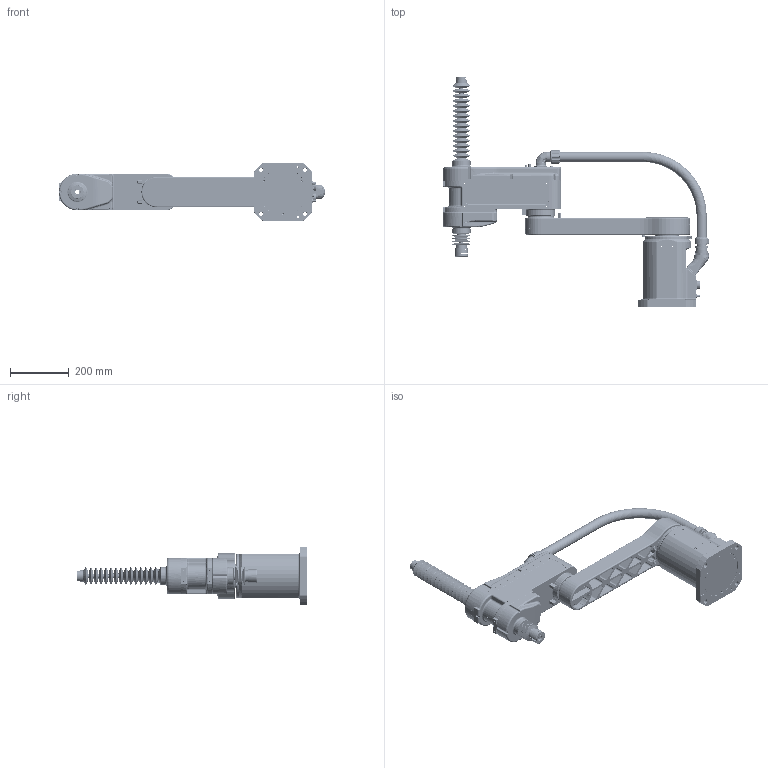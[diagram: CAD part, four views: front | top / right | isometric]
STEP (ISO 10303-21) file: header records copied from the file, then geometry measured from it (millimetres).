
FILE_DESCRIPTION (( 'STEP AP214' ), '1' );
FILE_NAME ('R4-0607F-00.STEP', '2023-06-10T08:28:22', ( 'iCura' ), ( 'ICOS' ), 'SwSTEP 2.0', 'SolidWorks 2018', '' );
FILE_SCHEMA (( 'AUTOMOTIVE_DESIGN' ));
Length unit declared in the file: millimetre
Products named in the file (7): 软管接头; 疏恇奪 0607; R4-0606F-4-00 ; R4-0606-3-00; R4-0607F-00; R4-0606-1-00; R4-0607-2-00
Assembly tree (6 placements, depth 2):
  R4-0607F-00
    R4-0606-1-00
    R4-0607-2-00
    R4-0606-3-00
    R4-0606F-4-00 
    软管接头
    疏恇奪 0607
Bounding box: 905.51 x 782.25 x 200 mm (x, y, z)
Volume: 237928.9 mm3; surface area: 1493655.9 mm2
Topology: 2 solids, 217 shells, 2657 faces, 9195 edges, 6600 vertices
Faces by surface type: cylinder 1103, plane 886, bspline 263, cone 212, torus 168, sphere 25
Full cylindrical faces by diameter (mm): 1 x18, 2.5 x31, 3.1 x2, 3.2 x8, 3.3 x16, 3.4 x24, 3.5 x44, 4 x6, 4.134 x1, 4.2 x18, 4.5 x16, 5 x2, 5.5 x34, 5.891 x2, 6 x14, 6.5 x4, 7 x17, 7.5 x2, 8 x24, 10 x5, 13 x2, 14 x7, 14.9 x1, 18 x1, 20 x2, 26 x1, 28.2 x2, 29 x2, 30 x4, 32 x3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
Entity records: 152444 total; most frequent: CARTESIAN_POINT 50822, DIRECTION 14625, ORIENTED_EDGE 13194, EDGE_CURVE 8237, VERTEX_POINT 6325, AXIS2_PLACEMENT_3D 5576, EDGE_LOOP 3877, VECTOR 3473
